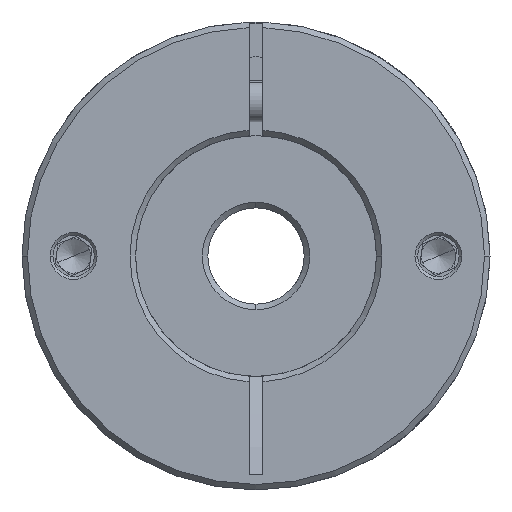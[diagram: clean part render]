
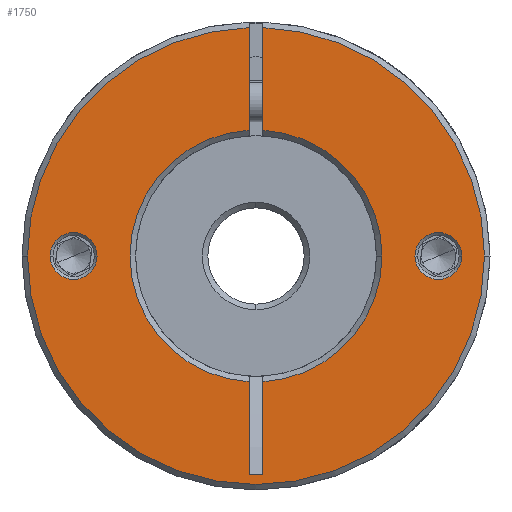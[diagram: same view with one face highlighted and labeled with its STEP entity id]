
A CAD part, front view. The second image highlights one B-rep face of the part: STEP entity #1750.
In plain terms, the highlighted planar face has unit normal (0, -1, 0).
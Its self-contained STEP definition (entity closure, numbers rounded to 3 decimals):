
#51 = CARTESIAN_POINT ( 'NONE',  ( 20.365, -47.045, 68. ) ) ;
#121 = VERTEX_POINT ( 'NONE', #11727 ) ;
#160 = DIRECTION ( 'NONE',  ( 1., 0., 0. ) ) ;
#175 = AXIS2_PLACEMENT_3D ( 'NONE', #4573, #6575, #6488 ) ;
#244 = ORIENTED_EDGE ( 'NONE', *, *, #9021, .T. ) ;
#665 = CARTESIAN_POINT ( 'NONE',  ( -3.735, -47.045, 68. ) ) ;
#841 = CARTESIAN_POINT ( 'NONE',  ( -2.735, -47.045, 68. ) ) ;
#847 = DIRECTION ( 'NONE',  ( 0., 0., -1. ) ) ;
#934 = DIRECTION ( 'NONE',  ( 0., -1., 0. ) ) ;
#1189 = VERTEX_POINT ( 'NONE', #13196 ) ;
#1264 = CARTESIAN_POINT ( 'NONE',  ( -29.235, -47.045, 68. ) ) ;
#1376 = CIRCLE ( 'NONE', #10252, 33.2 ) ;
#1399 = VERTEX_POINT ( 'NONE', #4058 ) ;
#1619 = CARTESIAN_POINT ( 'NONE',  ( -35.935, -47.045, 68. ) ) ;
#1631 = DIRECTION ( 'NONE',  ( 1., 0., 0. ) ) ;
#1665 = DIRECTION ( 'NONE',  ( 0., -1., 0. ) ) ;
#1677 = DIRECTION ( 'NONE',  ( -1., 0., 0. ) ) ;
#1750 = ADVANCED_FACE ( 'NONE', ( #5344, #7787, #2237 ), #13374, .T. ) ;
#1803 = ORIENTED_EDGE ( 'NONE', *, *, #8579, .T. ) ;
#1821 = CARTESIAN_POINT ( 'NONE',  ( 30.465, -47.045, 68. ) ) ;
#2013 = CARTESIAN_POINT ( 'NONE',  ( -1.735, -47.045, 49.727 ) ) ;
#2146 = DIRECTION ( 'NONE',  ( 0., 1., 0. ) ) ;
#2237 = FACE_OUTER_BOUND ( 'NONE', #7499, .T. ) ;
#2280 = CARTESIAN_POINT ( 'NONE',  ( -3.735, -47.045, 49.727 ) ) ;
#2359 = VERTEX_POINT ( 'NONE', #10277 ) ;
#2409 = CIRCLE ( 'NONE', #11935, 18.3 ) ;
#2721 = DIRECTION ( 'NONE',  ( 0., 1., 0. ) ) ;
#2860 = VECTOR ( 'NONE', #6540, 1000. ) ;
#3076 = DIRECTION ( 'NONE',  ( 1., 0., 0. ) ) ;
#3112 = EDGE_CURVE ( 'NONE', #9527, #1399, #11348, .T. ) ;
#3400 = ORIENTED_EDGE ( 'NONE', *, *, #5845, .T. ) ;
#3457 = EDGE_CURVE ( 'NONE', #3607, #7414, #7246, .T. ) ;
#3607 = VERTEX_POINT ( 'NONE', #1821 ) ;
#3608 = LINE ( 'NONE', #6887, #12100 ) ;
#3912 = CARTESIAN_POINT ( 'NONE',  ( -2.735, -47.045, 68. ) ) ;
#4058 = CARTESIAN_POINT ( 'NONE',  ( -1.735, -47.045, 36.279 ) ) ;
#4155 = VERTEX_POINT ( 'NONE', #12820 ) ;
#4519 = EDGE_LOOP ( 'NONE', ( #1803, #7979 ) ) ;
#4551 = ORIENTED_EDGE ( 'NONE', *, *, #3112, .T. ) ;
#4573 = CARTESIAN_POINT ( 'NONE',  ( -2.735, -47.045, 68. ) ) ;
#4577 = CARTESIAN_POINT ( 'NONE',  ( -1.735, -47.045, 68. ) ) ;
#5002 = CARTESIAN_POINT ( 'NONE',  ( -25.835, -47.045, 68. ) ) ;
#5005 = DIRECTION ( 'NONE',  ( 1., 0., 0. ) ) ;
#5061 = EDGE_CURVE ( 'NONE', #12462, #3607, #1376, .T. ) ;
#5344 = FACE_BOUND ( 'NONE', #10344, .T. ) ;
#5403 = AXIS2_PLACEMENT_3D ( 'NONE', #9536, #2146, #8573 ) ;
#5508 = VECTOR ( 'NONE', #6928, 1000. ) ;
#5639 = VERTEX_POINT ( 'NONE', #7285 ) ;
#5742 = CIRCLE ( 'NONE', #8475, 3.4 ) ;
#5766 = CARTESIAN_POINT ( 'NONE',  ( 23.765, -47.045, 68. ) ) ;
#5810 = CARTESIAN_POINT ( 'NONE',  ( -2.735, -47.045, 68. ) ) ;
#5823 = LINE ( 'NONE', #665, #5508 ) ;
#5834 = CARTESIAN_POINT ( 'NONE',  ( -1.735, -47.045, 101.185 ) ) ;
#5845 = EDGE_CURVE ( 'NONE', #11031, #5639, #12579, .T. ) ;
#5998 = DIRECTION ( 'NONE',  ( 0., 1., 0. ) ) ;
#6179 = CIRCLE ( 'NONE', #9862, 3.4 ) ;
#6309 = ORIENTED_EDGE ( 'NONE', *, *, #7389, .F. ) ;
#6488 = DIRECTION ( 'NONE',  ( 1., 0., 0. ) ) ;
#6540 = DIRECTION ( 'NONE',  ( 0., 0., -1. ) ) ;
#6556 = EDGE_CURVE ( 'NONE', #121, #8366, #5742, .T. ) ;
#6575 = DIRECTION ( 'NONE',  ( 0., -1., 0. ) ) ;
#6633 = AXIS2_PLACEMENT_3D ( 'NONE', #11018, #2721, #12151 ) ;
#6656 = VERTEX_POINT ( 'NONE', #5002 ) ;
#6712 = DIRECTION ( 'NONE',  ( 0., 1., 0. ) ) ;
#6887 = CARTESIAN_POINT ( 'NONE',  ( -3.735, -47.045, 68. ) ) ;
#6912 = CARTESIAN_POINT ( 'NONE',  ( 23.765, -47.045, 68. ) ) ;
#6928 = DIRECTION ( 'NONE',  ( 0., 0., -1. ) ) ;
#6999 = DIRECTION ( 'NONE',  ( 1., 0., 0. ) ) ;
#7047 = CARTESIAN_POINT ( 'NONE',  ( -1.735, -47.045, 68. ) ) ;
#7246 = CIRCLE ( 'NONE', #175, 33.2 ) ;
#7285 = CARTESIAN_POINT ( 'NONE',  ( -3.735, -47.045, 86.273 ) ) ;
#7389 = EDGE_CURVE ( 'NONE', #11031, #2359, #3608, .T. ) ;
#7414 = VERTEX_POINT ( 'NONE', #5834 ) ;
#7499 = EDGE_LOOP ( 'NONE', ( #11186, #8709, #8539, #13044, #9157, #12404, #244, #4551, #13429, #6309, #3400 ) ) ;
#7662 = AXIS2_PLACEMENT_3D ( 'NONE', #1264, #8534, #160 ) ;
#7713 = EDGE_CURVE ( 'NONE', #4155, #12462, #8820, .T. ) ;
#7787 = FACE_BOUND ( 'NONE', #4519, .T. ) ;
#7979 = ORIENTED_EDGE ( 'NONE', *, *, #13448, .T. ) ;
#8366 = VERTEX_POINT ( 'NONE', #51 ) ;
#8475 = AXIS2_PLACEMENT_3D ( 'NONE', #6912, #5998, #6999 ) ;
#8524 = CIRCLE ( 'NONE', #7662, 3.4 ) ;
#8534 = DIRECTION ( 'NONE',  ( 0., 1., 0. ) ) ;
#8539 = ORIENTED_EDGE ( 'NONE', *, *, #5061, .T. ) ;
#8573 = DIRECTION ( 'NONE',  ( 1., 0., 0. ) ) ;
#8579 = EDGE_CURVE ( 'NONE', #6656, #8691, #9125, .T. ) ;
#8609 = CARTESIAN_POINT ( 'NONE',  ( -1.735, -47.045, 86.273 ) ) ;
#8691 = VERTEX_POINT ( 'NONE', #11271 ) ;
#8709 = ORIENTED_EDGE ( 'NONE', *, *, #7713, .T. ) ;
#8744 = ORIENTED_EDGE ( 'NONE', *, *, #6556, .T. ) ;
#8820 = CIRCLE ( 'NONE', #13368, 33.2 ) ;
#9021 = EDGE_CURVE ( 'NONE', #1189, #9527, #10424, .T. ) ;
#9053 = DIRECTION ( 'NONE',  ( 1., 0., 0. ) ) ;
#9113 = VECTOR ( 'NONE', #847, 1000. ) ;
#9125 = CIRCLE ( 'NONE', #12424, 3.4 ) ;
#9135 = EDGE_CURVE ( 'NONE', #8366, #121, #6179, .T. ) ;
#9157 = ORIENTED_EDGE ( 'NONE', *, *, #9908, .T. ) ;
#9527 = VERTEX_POINT ( 'NONE', #2013 ) ;
#9536 = CARTESIAN_POINT ( 'NONE',  ( -2.735, -47.045, 68. ) ) ;
#9853 = CARTESIAN_POINT ( 'NONE',  ( -3.735, -47.045, 36.279 ) ) ;
#9862 = AXIS2_PLACEMENT_3D ( 'NONE', #5766, #9901, #1631 ) ;
#9901 = DIRECTION ( 'NONE',  ( 0., 1., 0. ) ) ;
#9908 = EDGE_CURVE ( 'NONE', #7414, #10209, #11895, .T. ) ;
#10209 = VERTEX_POINT ( 'NONE', #8609 ) ;
#10252 = AXIS2_PLACEMENT_3D ( 'NONE', #3912, #11214, #5005 ) ;
#10277 = CARTESIAN_POINT ( 'NONE',  ( -3.735, -47.045, 36.279 ) ) ;
#10344 = EDGE_LOOP ( 'NONE', ( #8744, #12946 ) ) ;
#10396 = VECTOR ( 'NONE', #1677, 1000. ) ;
#10424 = CIRCLE ( 'NONE', #5403, 18.3 ) ;
#10795 = EDGE_CURVE ( 'NONE', #10209, #1189, #2409, .T. ) ;
#10864 = DIRECTION ( 'NONE',  ( 0., 1., 0. ) ) ;
#10959 = EDGE_CURVE ( 'NONE', #4155, #5639, #5823, .T. ) ;
#11005 = CARTESIAN_POINT ( 'NONE',  ( -2.735, -47.045, 68. ) ) ;
#11006 = DIRECTION ( 'NONE',  ( 0., 0., -1. ) ) ;
#11018 = CARTESIAN_POINT ( 'NONE',  ( -2.735, -47.045, 68. ) ) ;
#11031 = VERTEX_POINT ( 'NONE', #2280 ) ;
#11186 = ORIENTED_EDGE ( 'NONE', *, *, #10959, .F. ) ;
#11207 = EDGE_CURVE ( 'NONE', #1399, #2359, #12501, .T. ) ;
#11214 = DIRECTION ( 'NONE',  ( 0., -1., 0. ) ) ;
#11271 = CARTESIAN_POINT ( 'NONE',  ( -32.635, -47.045, 68. ) ) ;
#11348 = LINE ( 'NONE', #4577, #2860 ) ;
#11727 = CARTESIAN_POINT ( 'NONE',  ( 27.165, -47.045, 68. ) ) ;
#11895 = LINE ( 'NONE', #7047, #9113 ) ;
#11913 = CARTESIAN_POINT ( 'NONE',  ( -29.235, -47.045, 68. ) ) ;
#11935 = AXIS2_PLACEMENT_3D ( 'NONE', #11005, #10864, #12047 ) ;
#12047 = DIRECTION ( 'NONE',  ( 1., 0., 0. ) ) ;
#12091 = DIRECTION ( 'NONE',  ( 1., 0., 0. ) ) ;
#12100 = VECTOR ( 'NONE', #11006, 1000. ) ;
#12151 = DIRECTION ( 'NONE',  ( 1., 0., 0. ) ) ;
#12177 = AXIS2_PLACEMENT_3D ( 'NONE', #841, #934, #3076 ) ;
#12404 = ORIENTED_EDGE ( 'NONE', *, *, #10795, .T. ) ;
#12424 = AXIS2_PLACEMENT_3D ( 'NONE', #11913, #6712, #12091 ) ;
#12462 = VERTEX_POINT ( 'NONE', #1619 ) ;
#12501 = LINE ( 'NONE', #9853, #10396 ) ;
#12579 = CIRCLE ( 'NONE', #6633, 18.3 ) ;
#12820 = CARTESIAN_POINT ( 'NONE',  ( -3.735, -47.045, 101.185 ) ) ;
#12946 = ORIENTED_EDGE ( 'NONE', *, *, #9135, .T. ) ;
#13044 = ORIENTED_EDGE ( 'NONE', *, *, #3457, .T. ) ;
#13196 = CARTESIAN_POINT ( 'NONE',  ( 15.565, -47.045, 68. ) ) ;
#13368 = AXIS2_PLACEMENT_3D ( 'NONE', #5810, #1665, #9053 ) ;
#13374 = PLANE ( 'NONE',  #12177 ) ;
#13429 = ORIENTED_EDGE ( 'NONE', *, *, #11207, .T. ) ;
#13448 = EDGE_CURVE ( 'NONE', #8691, #6656, #8524, .T. ) ;
